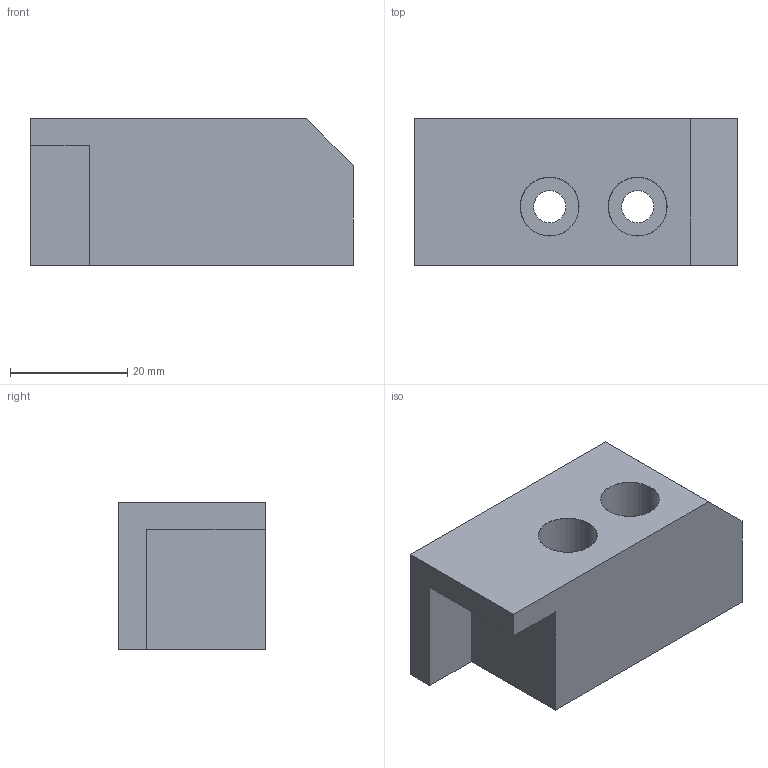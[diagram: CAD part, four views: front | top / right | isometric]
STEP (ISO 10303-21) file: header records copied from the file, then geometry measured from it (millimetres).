
FILE_DESCRIPTION (( 'STEP AP203' ), '1' );
FILE_NAME ('RailBracketRight.STEP', '2025-03-11T00:33:58', ( '' ), ( '' ), 'SwSTEP 2.0', 'SolidWorks 2024', '' );
FILE_SCHEMA (( 'CONFIG_CONTROL_DESIGN' ));
Length unit declared in the file: millimetre
Products named in the file (1): RailBracketRight
Bounding box: 55 x 25 x 25 mm (x, y, z)
Volume: 26044.6 mm3; surface area: 7902.3 mm2
Topology: 1 solids, 1 shells, 24 faces, 56 edges, 36 vertices
Faces by surface type: plane 12, cylinder 8, cone 4
Entity records: 771 total; most frequent: DIRECTION 126, CARTESIAN_POINT 117, ORIENTED_EDGE 112, EDGE_CURVE 56, AXIS2_PLACEMENT_3D 45, VERTEX_POINT 36, LINE 36, VECTOR 36
